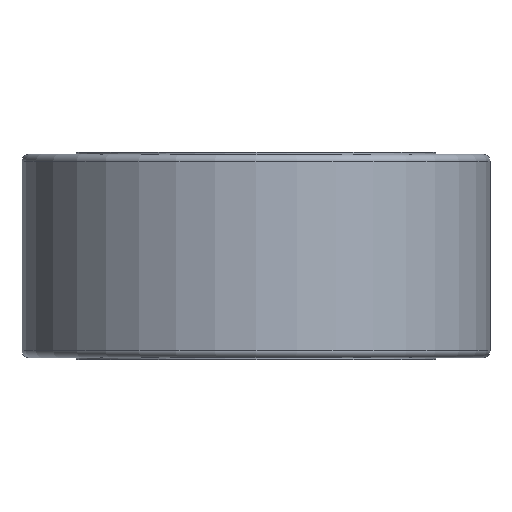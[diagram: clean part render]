
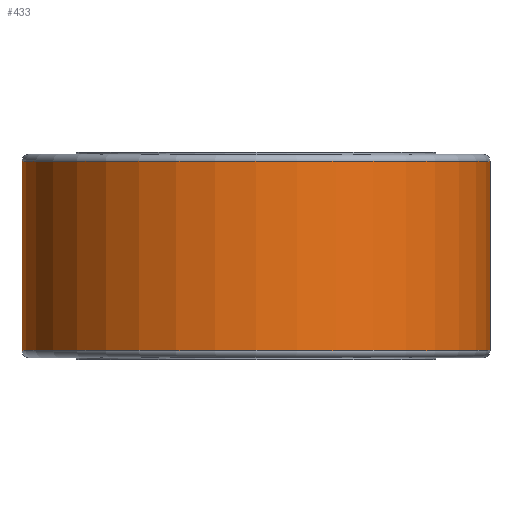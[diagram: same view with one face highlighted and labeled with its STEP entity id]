
A CAD part, front view. The second image highlights one B-rep face of the part: STEP entity #433.
In plain terms, the highlighted cylindrical face has radius 130 mm (diameter 260 mm), a partial arc.
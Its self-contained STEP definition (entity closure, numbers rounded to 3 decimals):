
#7 = FACE_OUTER_BOUND ( 'NONE', #480, .T. ) ;
#23 = DIRECTION ( 'NONE',  ( -1., 0., 0. ) ) ;
#41 = CARTESIAN_POINT ( 'NONE',  ( 0., 0., 109. ) ) ;
#52 = DIRECTION ( 'NONE',  ( 1., 0., 0. ) ) ;
#89 = EDGE_CURVE ( 'NONE', #356, #217, #294, .T. ) ;
#104 = ORIENTED_EDGE ( 'NONE', *, *, #119, .T. ) ;
#119 = EDGE_CURVE ( 'NONE', #356, #438, #327, .T. ) ;
#121 = LINE ( 'NONE', #355, #316 ) ;
#135 = DIRECTION ( 'NONE',  ( 1., 0., 0. ) ) ;
#144 = EDGE_CURVE ( 'NONE', #340, #217, #225, .T. ) ;
#152 = CARTESIAN_POINT ( 'NONE',  ( 130., 0., 113. ) ) ;
#161 = CARTESIAN_POINT ( 'NONE',  ( 0., 0., 113. ) ) ;
#188 = DIRECTION ( 'NONE',  ( 0., 0., 1. ) ) ;
#194 = DIRECTION ( 'NONE',  ( 0., 0., -1. ) ) ;
#212 = CARTESIAN_POINT ( 'NONE',  ( 130., 0., 4. ) ) ;
#217 = VERTEX_POINT ( 'NONE', #212 ) ;
#225 = CIRCLE ( 'NONE', #507, 130. ) ;
#264 = VECTOR ( 'NONE', #194, 1000. ) ;
#271 = CARTESIAN_POINT ( 'NONE',  ( -130., 0., 4. ) ) ;
#290 = CARTESIAN_POINT ( 'NONE',  ( 0., 0., 4. ) ) ;
#294 = LINE ( 'NONE', #152, #264 ) ;
#297 = DIRECTION ( 'NONE',  ( 0., 0., -1. ) ) ;
#306 = CYLINDRICAL_SURFACE ( 'NONE', #428, 130. ) ;
#316 = VECTOR ( 'NONE', #297, 1000. ) ;
#322 = ORIENTED_EDGE ( 'NONE', *, *, #89, .F. ) ;
#327 = CIRCLE ( 'NONE', #439, 130. ) ;
#340 = VERTEX_POINT ( 'NONE', #271 ) ;
#350 = DIRECTION ( 'NONE',  ( 0., 0., -1. ) ) ;
#351 = CARTESIAN_POINT ( 'NONE',  ( -130., 0., 109. ) ) ;
#355 = CARTESIAN_POINT ( 'NONE',  ( -130., 0., 113. ) ) ;
#356 = VERTEX_POINT ( 'NONE', #464 ) ;
#367 = DIRECTION ( 'NONE',  ( 0., 0., -1. ) ) ;
#423 = ORIENTED_EDGE ( 'NONE', *, *, #144, .T. ) ;
#424 = EDGE_CURVE ( 'NONE', #438, #340, #121, .T. ) ;
#428 = AXIS2_PLACEMENT_3D ( 'NONE', #161, #367, #23 ) ;
#433 = ADVANCED_FACE ( 'NONE', ( #7 ), #306, .T. ) ;
#438 = VERTEX_POINT ( 'NONE', #351 ) ;
#439 = AXIS2_PLACEMENT_3D ( 'NONE', #41, #350, #135 ) ;
#464 = CARTESIAN_POINT ( 'NONE',  ( 130., 0., 109. ) ) ;
#475 = ORIENTED_EDGE ( 'NONE', *, *, #424, .T. ) ;
#480 = EDGE_LOOP ( 'NONE', ( #322, #104, #475, #423 ) ) ;
#507 = AXIS2_PLACEMENT_3D ( 'NONE', #290, #188, #52 ) ;
